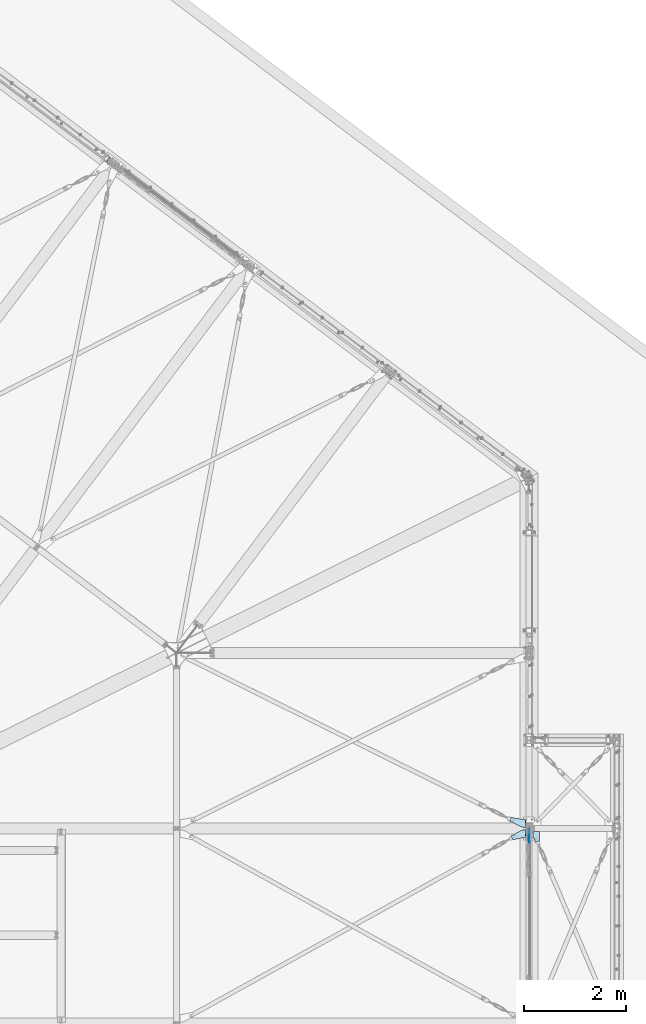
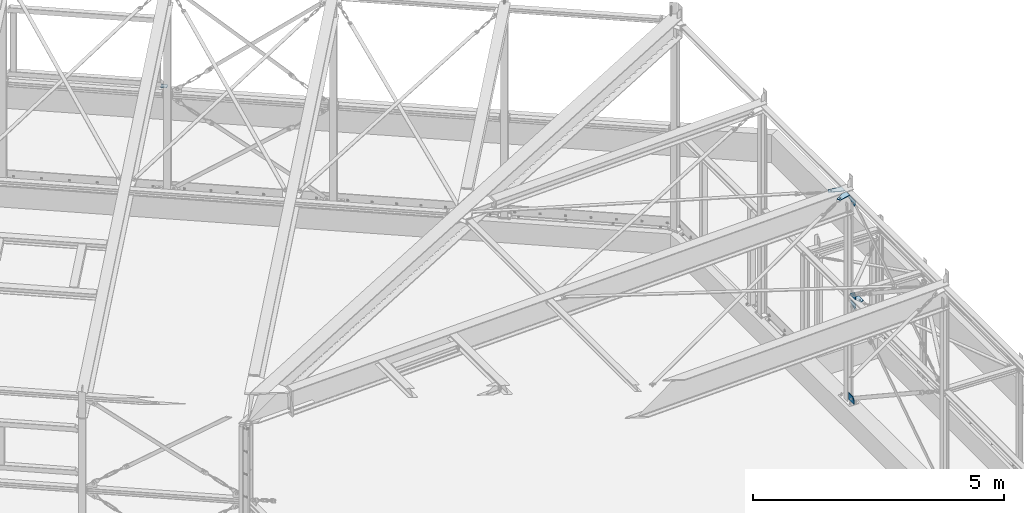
# One storey, part 61 of 476: 8 plates, 17 openings.
"""IFC2X3 building model written with IfcOpenShell, lengths in millimetres."""

from ifc_helpers import new_model, entity, si_unit, converted_unit, point, frame, frame_2d, origin, origin_with_axes, origin_2d_with_axis, place, context, project, spatial, polyline, circle_curve, line_curve, trimmed, segment, composite_curve, circle, outline, extrude, material, layer, layer_set, element, save


model = new_model("IFC2X3")

# Units and contexts
model_context = context("Model", 3, precision=1e-09, world=origin_with_axes())
ifc_project = project(units=[si_unit("LENGTHUNIT", "METRE", prefix="MILLI"), si_unit("AREAUNIT", "SQUARE_METRE"), si_unit("VOLUMEUNIT", "CUBIC_METRE"), converted_unit("PLANEANGLEUNIT", "DEGREE", entity("IfcPlaneAngleMeasure", 0.01745329), si_unit("PLANEANGLEUNIT", "RADIAN"), dimensions=[0, 0, 0, 0, 0, 0, 0])], contexts=[model_context])

# Site, building, storey
site_placement = place(None, origin_with_axes())
site = spatial("IfcSite", under=ifc_project, at=site_placement, Name="mKR Teilneubau & Sanierung BA1 - Ostfildern", CompositionType="ELEMENT")
building_placement = place(site_placement, origin_with_axes())
building = spatial("IfcBuilding", under=site, at=building_placement, Name="Struktur 1", CompositionType="ELEMENT")
storey_placement = place(building_placement, origin_with_axes())
storey = spatial("IfcBuildingStorey", under=building, at=storey_placement, Name="Default Storey", CompositionType="ELEMENT", Elevation=0.0)

# Plate, openings
ifc_material = material(Name="S235JR")
ifc_layer_1 = layer(ifc_material, 15.0)
ifc_layer_set_1 = layer_set([ifc_layer_1], Name="S235JR")
plate_1_placement = place(None, frame((21903.92386925, -5966.67287897, 5627.158981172), z_axis=(-0.030019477, 0.0, 0.999549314), x_axis=(-0.999549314, 0.0, -0.030019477)))
plate_1 = element("IfcPlate", 1, at=plate_1_placement, inside=storey, material=ifc_layer_set_1, Name="-", ObjectType="-", context=model_context, shape_type="SweptSolid", body=[
    extrude(outline(polyline([(0.0, 0.0), (55.140356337, 0.0), (291.381008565, 130.729269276), (252.646618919, 200.726934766), (1e-09, 150.0), (0.0, 0.0)])), origin_with_axes(), (0.0, 0.0, -1.0), 15.0),
])
opening_1_placement = place(plate_1_placement, frame((55.140356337, 0.0, 0.01), z_axis=(0.0, 0.0, 1.0), x_axis=(0.874966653, 0.484183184, 0.0)))
element("IfcOpeningElement", 2, at=opening_1_placement, cuts=plate_1, ObjectType="Opening", context=model_context, shape_type="SweptSolid", body=[
    extrude(outline(composite_curve([segment(trimmed(line_curve((0.0, 0.0), (1.0, 0.0), 45.191234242), [point((0.0, 0.0))], [point((45.191234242, 0.0))], True, "CARTESIAN"), True, "CONTINUOUS"), segment(trimmed(circle_curve(frame_2d((45.191234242, 175.0), x_axis=(-1.0, 0.0)), 175.0), [point((45.191234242, 0.0))], [point((-39.540822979, 21.880835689))], False, "CARTESIAN"), True, "CONTINUOUS"), segment(trimmed(line_curve((-39.540822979, 21.880835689), (0.874966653, -0.484183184), 45.191234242), [point((-39.540822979, 21.880835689))], [point((0.0, 0.0))], True, "CARTESIAN"), True, "CONTINUOUS")], self_intersect=False)), origin(), (0.0, 0.0, -1.0), 15.02),
])
opening_2_placement = place(plate_1_placement, frame((0.0, -0.001, 0.0), z_axis=(0.0, 1.0, 0.0), x_axis=(1.0, 0.0, 0.0)))
element("IfcOpeningElement", 3, at=opening_2_placement, cuts=plate_1, ObjectType="Opening", context=model_context, shape_type="SweptSolid", body=[
    extrude(outline(polyline([(0.0, 0.0), (8.0, 0.0), (0.0, 8.0), (0.0, 0.0)])), origin(), (0.0, 0.0, 1.0), 151.628257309),
])
opening_3_placement = place(plate_1_placement, frame((206.828395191, 129.656694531, -15.499404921), z_axis=(-2.2474e-05, 0.0, -1.0), x_axis=(-1.0, 0.0, 2.2474e-05)))
element("IfcOpeningElement", 4, at=opening_3_placement, cuts=plate_1, ObjectType="Opening", context=model_context, shape_type="SweptSolid", body=[
    extrude(circle(Radius=14.501, at=frame_2d((-12.687891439, 7.021140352), x_axis=(1.0, 0.0))), origin(), (0.0, 0.0, -1.0), 16.000000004),
])

plate_2_placement = place(None, frame((21903.923471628, -5930.67487897, 5627.15896923), z_axis=(0.030019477, 0.0, -0.999549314), x_axis=(-0.999549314, 0.0, -0.030019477)))
plate_2 = element("IfcPlate", 5, at=plate_2_placement, inside=storey, material=ifc_layer_set_1, Name="-", ObjectType="-", context=model_context, shape_type="SweptSolid", body=[
    extrude(outline(polyline([(0.0, 0.0), (60.928430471, 0.0), (320.162470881, 129.005250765), (284.520294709, 200.626722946), (1e-09, 150.0), (0.0, 0.0)])), origin_with_axes(), (0.0, 0.0, 1.0), 15.0),
])
opening_4_placement = place(plate_2_placement, frame((1e-09, 151.424496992, 0.0), z_axis=(0.0, -1.0, 0.0), x_axis=(1.0, 0.0, 0.0)))
element("IfcOpeningElement", 6, at=opening_4_placement, cuts=plate_2, ObjectType="Opening", context=model_context, shape_type="SweptSolid", body=[
    extrude(outline(polyline([(0.0, 0.0), (8.0, 0.0), (0.0, 8.0), (0.0, 0.0)])), origin(), (0.0, 0.0, 1.0), 151.445496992),
])
opening_5_placement = place(plate_2_placement, frame((0.0, 0.0, -0.01), z_axis=(0.0, 0.0, 1.0), x_axis=(1.0, 0.0, 0.0)))
element("IfcOpeningElement", 7, at=opening_5_placement, cuts=plate_2, ObjectType="Opening", context=model_context, shape_type="SweptSolid", body=[
    extrude(outline(composite_curve([segment(trimmed(line_curve((60.928430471, 0.0), (0.895270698, 0.445522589), 41.13737061), [point((60.928430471, 0.0))], [point((97.757512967, 18.327627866))], True, "CARTESIAN"), True, "CONTINUOUS"), segment(trimmed(circle_curve(frame_2d((19.791059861, 175.0), x_axis=(-1.0, 0.0)), 175.0), [point((97.757512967, 18.327627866))], [point((19.791059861, 0.0))], False, "CARTESIAN"), True, "CONTINUOUS"), segment(trimmed(line_curve((19.791059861, 0.0), (1.0, 0.0), 41.13737061), [point((19.791059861, 0.0))], [point((60.928430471, 0.0))], True, "CARTESIAN"), True, "CONTINUOUS")], self_intersect=False)), origin(), (0.0, 0.0, 1.0), 15.02),
])
opening_6_placement = place(plate_2_placement, frame((235.645282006, 131.625646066, 15.499398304), z_axis=(-2.2474e-05, 0.0, 1.0), x_axis=(1.0, 0.0, 2.2474e-05)))
element("IfcOpeningElement", 8, at=opening_6_placement, cuts=plate_2, ObjectType="Opening", context=model_context, shape_type="SweptSolid", body=[
    extrude(circle(Radius=14.501, at=frame_2d((12.982331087, 6.46050157), x_axis=(1.0, 0.0))), origin(), (0.0, 0.0, -1.0), 16.000000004),
])

plate_3_placement = place(None, frame((22167.911527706, -6190.757397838, 3020.101363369), z_axis=(0.029057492, 0.0, 0.999577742), x_axis=(0.0, 1.0, 0.0)))
plate_3 = element("IfcPlate", 9, at=plate_3_placement, inside=storey, material=ifc_layer_set_1, Name="-", ObjectType="-", context=model_context, shape_type="SweptSolid", body=[
    extrude(outline(polyline([(0.0, 0.0), (182.083518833, 0.0), (182.083518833, 120.416747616), (79.371322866, 120.416747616), (-31.155014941, 73.684225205), (0.0, 0.0)])), origin_with_axes(), (0.0, 0.0, -1.0), 15.0),
])
opening_7_placement = place(plate_3_placement, frame((182.083518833, -0.001, -15.0), z_axis=(0.0, 1.0, 0.0), x_axis=(-1.0, 0.0, 0.0)))
element("IfcOpeningElement", 10, at=opening_7_placement, cuts=plate_3, ObjectType="Opening", context=model_context, shape_type="SweptSolid", body=[
    extrude(outline(polyline([(0.0, 0.0), (8.0, 0.0), (0.0, 8.0), (0.0, 0.0)])), origin(), (0.0, 0.0, 1.0), 120.438747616),
])
opening_8_placement = place(plate_3_placement, frame((54.186661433, 60.208373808, -15.5), z_axis=(0.0, 0.0, -1.0), x_axis=(-1.0, 0.0, 0.0)))
element("IfcOpeningElement", 11, at=opening_8_placement, cuts=plate_3, ObjectType="Opening", context=model_context, shape_type="SweptSolid", body=[
    extrude(circle(Radius=14.501, at=frame_2d((14.501, 0.0), x_axis=(1.0, 0.0))), origin(), (0.0, 0.0, -1.0), 16.0),
])

# Plate, opening
plate_4_placement = place(None, frame((21958.108780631, -6048.67487897, 3125.000017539), z_axis=(-1.0, 0.0, 0.0), x_axis=(0.0, -1.0, 0.0)))
plate_4 = element("IfcPlate", 12, at=plate_4_placement, inside=storey, material=ifc_layer_set_1, Name="-", ObjectType="-", context=model_context, shape_type="SweptSolid", body=[
    extrude(outline(polyline([(0.0, 0.0), (180.0, 0.0), (180.0, 78.844356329), (136.118742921, 145.73557606), (0.0, 56.440425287), (0.0, 0.0)])), origin_with_axes(), (0.0, 0.0, -1.0), 15.0),
])
opening_9_placement = place(plate_4_placement, frame((91.889956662, 79.379023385, 0.5), z_axis=(0.0, 0.0, 1.0), x_axis=(1.0, 0.0, 0.0)))
element("IfcOpeningElement", 13, at=opening_9_placement, cuts=plate_4, ObjectType="Opening", context=model_context, shape_type="SweptSolid", body=[
    extrude(circle(Radius=16.001, at=frame_2d((16.001, 0.0), x_axis=(1.0, 0.0))), origin(), (0.0, 0.0, -1.0), 16.0),
])

plate_5_placement = place(None, frame((21958.108780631, -6048.67487897, 3011.000017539), z_axis=(1.0, 0.0, 0.0), x_axis=(0.0, -1.0, 0.0)))
plate_5 = element("IfcPlate", 14, at=plate_5_placement, inside=storey, material=ifc_layer_set_1, Name="-", ObjectType="-", context=model_context, shape_type="SweptSolid", body=[
    extrude(outline(polyline([(0.0, 0.0), (180.0, 0.0), (180.0, 80.129571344), (135.88659144, 146.86792003), (0.0, 57.048174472), (0.0, 0.0)])), origin_with_axes(), (0.0, 0.0, 1.0), 15.0),
])
opening_10_placement = place(plate_5_placement, frame((91.888536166, 80.413686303, -0.5), z_axis=(0.0, 0.0, -1.0), x_axis=(-1.0, 0.0, 0.0)))
element("IfcOpeningElement", 15, at=opening_10_placement, cuts=plate_5, ObjectType="Opening", context=model_context, shape_type="SweptSolid", body=[
    extrude(circle(Radius=16.001, at=frame_2d((-16.001, 0.0), x_axis=(1.0, 0.0))), origin(), (0.0, 0.0, -1.0), 16.0),
])

plate_6_placement = place(None, frame((21958.108780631, -6048.67487897, 5514.98719498), z_axis=(1.0, 0.0, 0.0), x_axis=(0.0, -1.0, 0.0)))
plate_6 = element("IfcPlate", 16, at=plate_6_placement, inside=storey, material=ifc_layer_set_1, Name="-", ObjectType="-", context=model_context, shape_type="SweptSolid", body=[
    extrude(outline(polyline([(-82.0, 0.0), (180.0, 0.0), (180.0, 78.844356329), (136.118742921, 145.73557606), (-82.0, 50.0), (-82.0, 0.0)])), origin_with_axes(), (0.0, 0.0, 1.0), 15.0),
])
opening_11_placement = place(plate_6_placement, frame((107.890956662, 79.379023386, -0.5), z_axis=(0.0, 0.0, 1.0), x_axis=(1.0, 0.0, 0.0)))
element("IfcOpeningElement", 17, at=opening_11_placement, cuts=plate_6, ObjectType="Opening", context=model_context, shape_type="SweptSolid", body=[
    extrude(circle(Radius=16.001, at=origin_2d_with_axis()), origin(), (0.0, 0.0, 1.0), 16.0),
])

# Plate, openings
plate_7_placement = place(None, frame((21958.108764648, -5990.67387897, 563.661243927), z_axis=(-1.0, 0.0, 0.0), x_axis=(0.0, -1.0, 0.0)))
plate_7 = element("IfcPlate", 18, at=plate_7_placement, inside=storey, material=ifc_layer_set_1, Name="-", ObjectType="-", context=model_context, shape_type="SweptSolid", body=[
    extrude(outline(polyline([(-39.25, -18.661243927), (180.0, -18.661243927), (180.0, 80.129571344), (135.88659144, 146.86792003), (-39.25, 146.86792003), (-39.25, -18.661243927)])), origin_with_axes(), (0.0, 0.0, -1.0), 15.0),
])
opening_12_placement = place(plate_7_placement, frame((-39.25, -18.661243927, 0.01), z_axis=(0.0, 0.0, 1.0), x_axis=(1.0, 0.0, 0.0)))
element("IfcOpeningElement", 19, at=opening_12_placement, cuts=plate_7, ObjectType="Opening", context=model_context, shape_type="SweptSolid", body=[
    extrude(outline(polyline([(0.0, 0.0), (20.0, 0.0), (0.0, 20.0), (0.0, 0.0)])), origin(), (0.0, 0.0, -1.0), 15.02),
])
opening_13_placement = place(plate_7_placement, frame((107.889536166, 80.413686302, 0.5), z_axis=(0.0, 0.0, -1.0), x_axis=(1.0, 0.0, 0.0)))
element("IfcOpeningElement", 20, at=opening_13_placement, cuts=plate_7, ObjectType="Opening", context=model_context, shape_type="SweptSolid", body=[
    extrude(circle(Radius=16.001, at=origin_2d_with_axis()), origin(), (0.0, 0.0, 1.0), 16.0),
])

ifc_layer_2 = layer(ifc_material, 10.0)
ifc_layer_set_2 = layer_set([ifc_layer_2], Name="S235JR")
plate_8_placement = place(None, frame((13752.628333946, 7196.408267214, 3100.0), z_axis=(0.0, 0.0, -1.0), x_axis=(0.797941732, -0.602734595, 0.0)))
plate_8 = element("IfcPlate", 21, at=plate_8_placement, inside=storey, material=ifc_layer_set_2, Name="-", ObjectType="-", context=model_context, shape_type="SweptSolid", body=[
    extrude(outline(polyline([(5.0, 0.0), (135.0, 0.0), (135.0, 100.0), (5.0, 100.0), (5.0, 0.0)])), origin_with_axes(), (0.0, 0.0, 1.0), 10.0),
])
opening_14_placement = place(plate_8_placement, frame((0.0, 0.0, -0.01), z_axis=(0.0, 0.0, 1.0), x_axis=(1.0, 0.0, 0.0)))
element("IfcOpeningElement", 22, at=opening_14_placement, cuts=plate_8, ObjectType="Opening", context=model_context, shape_type="SweptSolid", body=[
    extrude(outline(composite_curve([segment(trimmed(line_curve((135.0, 0.0), (0.0, 1.0), 13.0), [point((135.0, 0.0))], [point((135.0, 13.0))], True, "CARTESIAN"), True, "CONTINUOUS"), segment(trimmed(circle_curve(frame_2d((122.0, 13.0), x_axis=(-1.0, 0.0)), 13.0), [point((135.0, 13.0))], [point((122.0, 0.0))], False, "CARTESIAN"), True, "CONTINUOUS"), segment(trimmed(line_curve((122.0, 0.0), (1.0, 0.0), 13.0), [point((122.0, 0.0))], [point((135.0, 0.0))], True, "CARTESIAN"), True, "CONTINUOUS")], self_intersect=False)), origin(), (0.0, 0.0, 1.0), 10.02),
])
opening_15_placement = place(plate_8_placement, frame((124.0, 10.5, -0.5), z_axis=(0.0, 0.0, 1.0), x_axis=(0.0, -1.0, 0.0)))
element("IfcOpeningElement", 23, at=opening_15_placement, cuts=plate_8, ObjectType="Opening", context=model_context, shape_type="SweptSolid", body=[
    extrude(circle(Radius=5.001, at=origin_2d_with_axis()), origin(), (0.0, 0.0, 1.0), 11.0),
])
opening_16_placement = place(plate_8_placement, frame((28.75, 50.0, 10.5), z_axis=(0.0, 0.0, -1.0), x_axis=(-1.0, 0.0, 0.0)))
element("IfcOpeningElement", 24, at=opening_16_placement, cuts=plate_8, ObjectType="Opening", context=model_context, shape_type="SweptSolid", body=[
    extrude(circle(Radius=7.001, at=frame_2d((0.0, 30.0), x_axis=(1.0, 0.0))), origin(), (0.0, 0.0, 1.0), 11.0),
])
opening_17_placement = place(plate_8_placement, frame((28.75, 50.0, 10.5), z_axis=(0.0, 0.0, -1.0), x_axis=(-1.0, 0.0, 0.0)))
element("IfcOpeningElement", 25, at=opening_17_placement, cuts=plate_8, ObjectType="Opening", context=model_context, shape_type="SweptSolid", body=[
    extrude(circle(Radius=7.001, at=frame_2d((0.0, -30.0), x_axis=(1.0, 0.0))), origin(), (0.0, 0.0, 1.0), 11.0),
])

save(model, "model.ifc")
